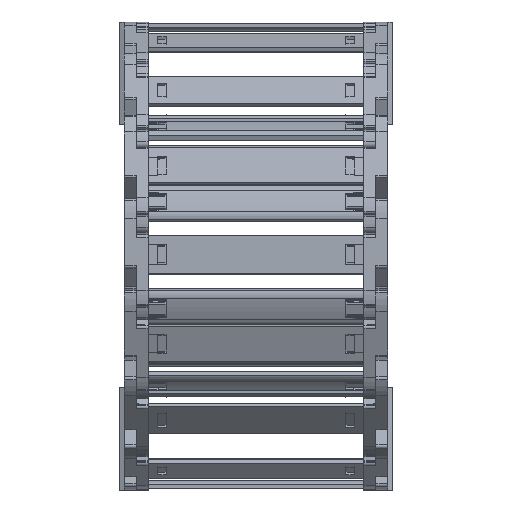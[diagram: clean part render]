
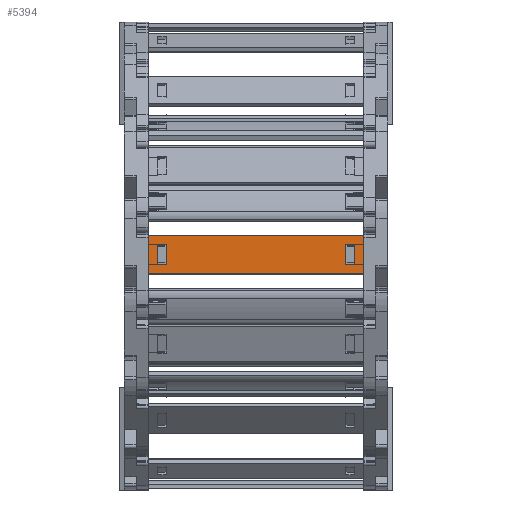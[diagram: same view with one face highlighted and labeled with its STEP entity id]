
A CAD part, left-side view. The second image highlights one B-rep face of the part: STEP entity #5394.
In plain terms, the highlighted planar face has unit normal (-1, 0, 0.007) as drawn and (0, 1, 0) by its records, which use the part's own axes.
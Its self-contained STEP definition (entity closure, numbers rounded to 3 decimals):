
#4814=DIRECTION('',(0.,0.,1.));
#4815=VECTOR('',#4814,15.8);
#4816=CARTESIAN_POINT('',(75.74,1.5,-7.9));
#4817=LINE('',#4816,#4815);
#4818=DIRECTION('',(-1.,0.,0.));
#4819=VECTOR('',#4818,90.5);
#4820=CARTESIAN_POINT('',(75.74,1.5,7.9));
#4821=LINE('',#4820,#4819);
#4822=DIRECTION('',(0.,0.,-1.));
#4823=VECTOR('',#4822,15.8);
#4824=CARTESIAN_POINT('',(-14.76,1.5,7.9));
#4825=LINE('',#4824,#4823);
#4826=DIRECTION('',(1.,0.,0.));
#4827=VECTOR('',#4826,3.648);
#4828=CARTESIAN_POINT('',(68.122,1.5,4.075));
#4829=LINE('',#4828,#4827);
#4830=DIRECTION('',(0.,0.,-1.));
#4831=VECTOR('',#4830,8.15);
#4832=CARTESIAN_POINT('',(71.77,1.5,4.075));
#4833=LINE('',#4832,#4831);
#4834=DIRECTION('',(-1.,0.,0.));
#4835=VECTOR('',#4834,3.648);
#4836=CARTESIAN_POINT('',(71.77,1.5,-4.075));
#4837=LINE('',#4836,#4835);
#4838=DIRECTION('',(0.,0.,-1.));
#4839=VECTOR('',#4838,8.15);
#4840=CARTESIAN_POINT('',(-7.142,1.5,4.075));
#4841=LINE('',#4840,#4839);
#4842=DIRECTION('',(-1.,0.,0.));
#4843=VECTOR('',#4842,3.648);
#4844=CARTESIAN_POINT('',(-7.142,1.5,-4.075));
#4845=LINE('',#4844,#4843);
#4846=DIRECTION('',(0.,0.,1.));
#4847=VECTOR('',#4846,8.15);
#4848=CARTESIAN_POINT('',(-10.79,1.5,-4.075));
#4849=LINE('',#4848,#4847);
#4850=DIRECTION('',(1.,0.,0.));
#4851=VECTOR('',#4850,3.648);
#4852=CARTESIAN_POINT('',(-10.79,1.5,4.075));
#4853=LINE('',#4852,#4851);
#4858=DIRECTION('',(-1.,0.,0.));
#4859=VECTOR('',#4858,90.5);
#4860=CARTESIAN_POINT('',(75.74,1.5,-7.9));
#4861=LINE('',#4860,#4859);
#4979=DIRECTION('',(0.,0.,-1.));
#4980=VECTOR('',#4979,8.15);
#4981=CARTESIAN_POINT('',(68.122,1.5,4.075));
#4982=LINE('',#4981,#4980);
#5164=CARTESIAN_POINT('',(71.77,1.5,4.075));
#5165=VERTEX_POINT('',#5164);
#5166=CARTESIAN_POINT('',(68.122,1.5,4.075));
#5167=VERTEX_POINT('',#5166);
#5208=CARTESIAN_POINT('',(68.122,1.5,-4.075));
#5209=VERTEX_POINT('',#5208);
#5210=CARTESIAN_POINT('',(71.77,1.5,-4.075));
#5211=VERTEX_POINT('',#5210);
#5212=CARTESIAN_POINT('',(75.74,1.5,7.9));
#5214=VERTEX_POINT('',#5212);
#5216=CARTESIAN_POINT('',(75.74,1.5,-7.9));
#5217=VERTEX_POINT('',#5216);
#5240=CARTESIAN_POINT('',(-7.142,1.5,4.075));
#5241=CARTESIAN_POINT('',(-7.142,1.5,-4.075));
#5242=VERTEX_POINT('',#5240);
#5243=VERTEX_POINT('',#5241);
#5244=CARTESIAN_POINT('',(-10.79,1.5,-4.075));
#5245=VERTEX_POINT('',#5244);
#5246=CARTESIAN_POINT('',(-10.79,1.5,4.075));
#5247=VERTEX_POINT('',#5246);
#5248=CARTESIAN_POINT('',(-14.76,1.5,7.9));
#5249=VERTEX_POINT('',#5248);
#5252=CARTESIAN_POINT('',(-14.76,1.5,-7.9));
#5253=VERTEX_POINT('',#5252);
#5363=CARTESIAN_POINT('',(107.48,1.5,10.061));
#5364=DIRECTION('',(0.,-1.,0.));
#5365=DIRECTION('',(0.,0.,-1.));
#5366=AXIS2_PLACEMENT_3D('',#5363,#5364,#5365);
#5367=PLANE('',#5366);
#5368=ORIENTED_EDGE('',*,*,#5302,.T.);
#5369=ORIENTED_EDGE('',*,*,#5328,.T.);
#5370=ORIENTED_EDGE('',*,*,#5341,.T.);
#5372=ORIENTED_EDGE('',*,*,#5371,.F.);
#5373=EDGE_LOOP('',(#5368,#5369,#5370,#5372));
#5374=FACE_OUTER_BOUND('',#5373,.F.);
#5376=ORIENTED_EDGE('',*,*,#5375,.F.);
#5377=ORIENTED_EDGE('',*,*,#5265,.T.);
#5379=ORIENTED_EDGE('',*,*,#5378,.T.);
#5381=ORIENTED_EDGE('',*,*,#5380,.T.);
#5382=EDGE_LOOP('',(#5376,#5377,#5379,#5381));
#5383=FACE_BOUND('',#5382,.F.);
#5385=ORIENTED_EDGE('',*,*,#5384,.T.);
#5387=ORIENTED_EDGE('',*,*,#5386,.T.);
#5389=ORIENTED_EDGE('',*,*,#5388,.T.);
#5391=ORIENTED_EDGE('',*,*,#5390,.T.);
#5392=EDGE_LOOP('',(#5385,#5387,#5389,#5391));
#5393=FACE_BOUND('',#5392,.F.);
#5394=ADVANCED_FACE('',(#5374,#5383,#5393),#5367,.F.);
#5265=EDGE_CURVE('',#5167,#5165,#4829,.T.);
#5302=EDGE_CURVE('',#5217,#5214,#4817,.T.);
#5328=EDGE_CURVE('',#5214,#5249,#4821,.T.);
#5341=EDGE_CURVE('',#5249,#5253,#4825,.T.);
#5371=EDGE_CURVE('',#5217,#5253,#4861,.T.);
#5375=EDGE_CURVE('',#5167,#5209,#4982,.T.);
#5378=EDGE_CURVE('',#5165,#5211,#4833,.T.);
#5380=EDGE_CURVE('',#5211,#5209,#4837,.T.);
#5384=EDGE_CURVE('',#5242,#5243,#4841,.T.);
#5386=EDGE_CURVE('',#5243,#5245,#4845,.T.);
#5388=EDGE_CURVE('',#5245,#5247,#4849,.T.);
#5390=EDGE_CURVE('',#5247,#5242,#4853,.T.);
